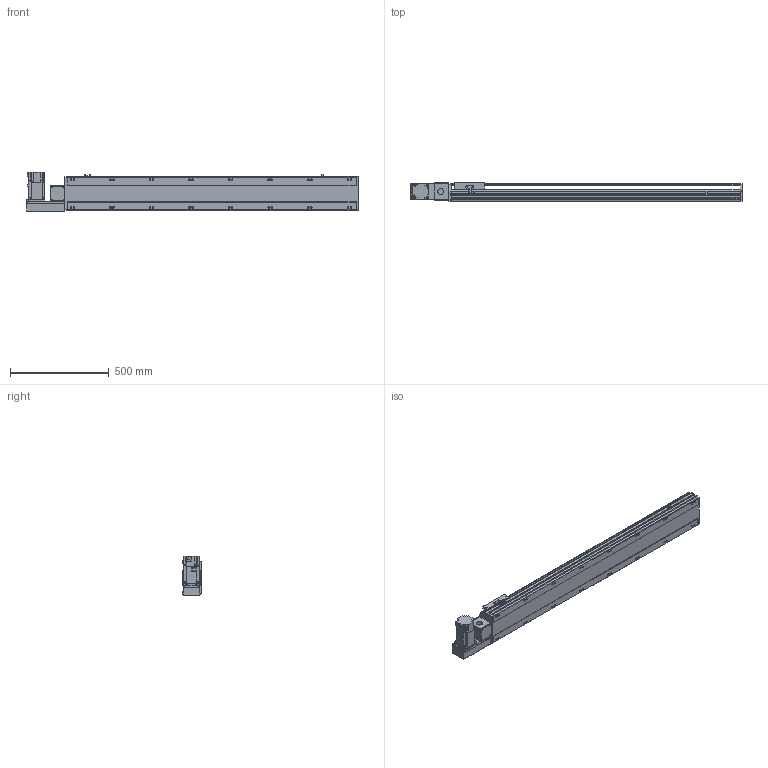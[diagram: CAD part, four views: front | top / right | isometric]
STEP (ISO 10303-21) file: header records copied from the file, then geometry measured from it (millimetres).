
FILE_DESCRIPTION( ( 'STEP AP214' ), '1' );
FILE_NAME( 'x:/temp/worker_2/temp/exporttempdir_1320_68_Us5Mh/format_0/PBS170-P40-S1200-L-T75-C1-N(0).stp', '2022-06-07T06:55:26', ( 'License CC BY-ND 4.0' ), ( 'CADENAS' ), ' ', 'PARTsolutions', ' ' );
FILE_SCHEMA( ( 'AUTOMOTIVE_DESIGN { 1 0 10303 214 1 1 1 1 }' ) );
Length unit declared in the file: millimetre
Products named in the file (7): PBS170-P40-S1200-L-T75-C1-N(0); _PBS170-S1200()_body; _PBS170T-L_motors; _T75-p1; _PBS170_sliser; _PBS170_plant; _PBS170_sensor
Assembly tree (8 placements, depth 2):
  PBS170-P40-S1200-L-T75-C1-N(0)
    _PBS170-S1200()_body
    _PBS170T-L_motors
    _T75-p1
    _PBS170_sliser
    _PBS170_plant
    _PBS170_sensor  x3
Bounding box: 1678 x 97 x 197.3 mm (x, y, z)
Volume: 12417725.7 mm3; surface area: 1611227.9 mm2
Topology: 8 solids, 8 shells, 1082 faces, 2875 edges, 1874 vertices
Faces by surface type: plane 687, cylinder 339, cone 46, sphere 8, torus 2
Full cylindrical faces by diameter (mm): 3.242 x4, 4 x2, 4.4 x4, 4.5 x6, 4.917 x4, 6 x9, 6.647 x24, 7 x2, 7.5 x4, 8 x8, 8.5 x16, 10 x4, 10.5 x16, 11 x2, 30 x2, 40 x1, 70 x1
Entity records: 39740 total; most frequent: CARTESIAN_POINT 6221, DIRECTION 5300, ORIENTED_EDGE 5028, EDGE_CURVE 2514, AXIS2_PLACEMENT_3D 1837, VERTEX_POINT 1730, LINE 1626, VECTOR 1626
